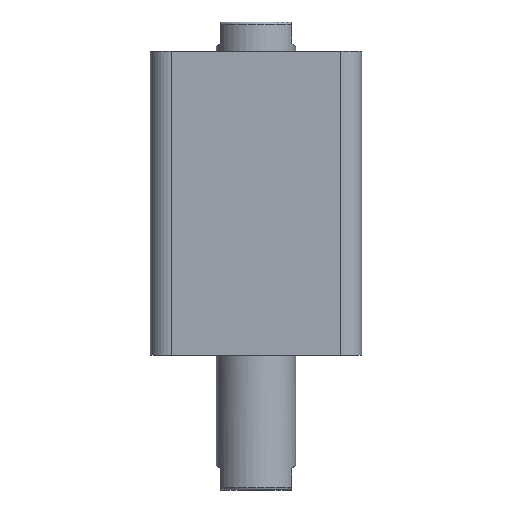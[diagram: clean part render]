
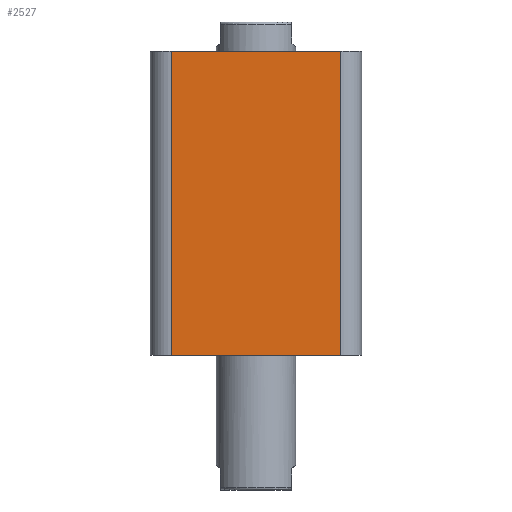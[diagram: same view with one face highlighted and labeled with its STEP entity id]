
A CAD part, front view. The second image highlights one B-rep face of the part: STEP entity #2527.
In plain terms, the highlighted planar face has unit normal (0, -1, 0).
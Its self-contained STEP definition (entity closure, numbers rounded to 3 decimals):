
#19 = CARTESIAN_POINT ( 'NONE',  ( -40., -40., 115. ) ) ;
#20 = DIRECTION ( 'NONE',  ( 1., 0., 0. ) ) ;
#117 = CARTESIAN_POINT ( 'NONE',  ( -40., -40., 0. ) ) ;
#125 = CARTESIAN_POINT ( 'NONE',  ( -32., -40., 115. ) ) ;
#126 = DIRECTION ( 'NONE',  ( 0., 0., -1. ) ) ;
#127 = DIRECTION ( 'NONE',  ( 1., 0., 0. ) ) ;
#128 = CARTESIAN_POINT ( 'NONE',  ( 32., -40., 115. ) ) ;
#129 = DIRECTION ( 'NONE',  ( 0., 0., 1. ) ) ;
#225 = EDGE_CURVE ( 'NONE', #2343, #2695, #1677, .T. ) ;
#309 = CARTESIAN_POINT ( 'NONE',  ( -40., -40., 115. ) ) ;
#311 = PLANE ( 'NONE',  #2203 ) ;
#313 = DIRECTION ( 'NONE',  ( 0., 1., 0. ) ) ;
#314 = DIRECTION ( 'NONE',  ( 0., 0., 1. ) ) ;
#469 = CARTESIAN_POINT ( 'NONE',  ( 32., -40., 115. ) ) ;
#552 = CARTESIAN_POINT ( 'NONE',  ( -32., -40., 0. ) ) ;
#921 = CARTESIAN_POINT ( 'NONE',  ( 32., -40., 0. ) ) ;
#928 = CARTESIAN_POINT ( 'NONE',  ( -32., -40., 115. ) ) ;
#1372 = FACE_OUTER_BOUND ( 'NONE', #2662, .T. ) ;
#1654 = ORIENTED_EDGE ( 'NONE', *, *, #1942, .T. ) ;
#1655 = ORIENTED_EDGE ( 'NONE', *, *, #1941, .T. ) ;
#1656 = ORIENTED_EDGE ( 'NONE', *, *, #1940, .T. ) ;
#1657 = ORIENTED_EDGE ( 'NONE', *, *, #225, .F. ) ;
#1677 = LINE ( 'NONE', #19, #1680 ) ;
#1680 = VECTOR ( 'NONE', #20, 1000. ) ;
#1711 = LINE ( 'NONE', #117, #1720 ) ;
#1712 = VECTOR ( 'NONE', #126, 1000. ) ;
#1713 = LINE ( 'NONE', #125, #1712 ) ;
#1719 = LINE ( 'NONE', #128, #1722 ) ;
#1720 = VECTOR ( 'NONE', #127, 1000. ) ;
#1722 = VECTOR ( 'NONE', #129, 1000. ) ;
#1940 = EDGE_CURVE ( 'NONE', #2343, #3165, #1713, .T. ) ;
#1941 = EDGE_CURVE ( 'NONE', #3165, #2341, #1711, .T. ) ;
#1942 = EDGE_CURVE ( 'NONE', #2341, #2695, #1719, .T. ) ;
#2203 = AXIS2_PLACEMENT_3D ( 'NONE', #309, #313, #314 ) ;
#2341 = VERTEX_POINT ( 'NONE', #921 ) ;
#2343 = VERTEX_POINT ( 'NONE', #928 ) ;
#2527 = ADVANCED_FACE ( 'NONE', ( #1372 ), #311, .F. ) ;
#2662 = EDGE_LOOP ( 'NONE', ( #1657, #1656, #1655, #1654 ) ) ;
#2695 = VERTEX_POINT ( 'NONE', #469 ) ;
#3165 = VERTEX_POINT ( 'NONE', #552 ) ;
